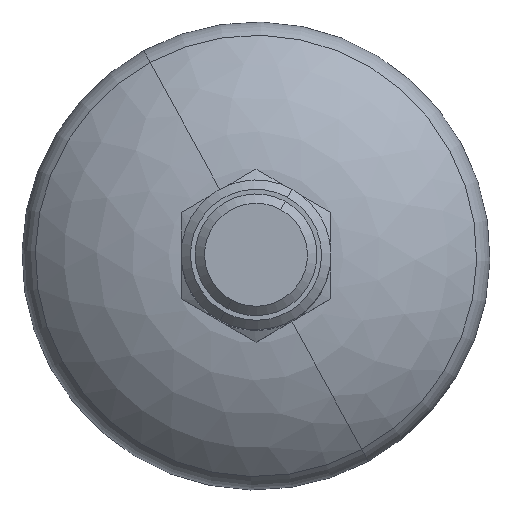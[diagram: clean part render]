
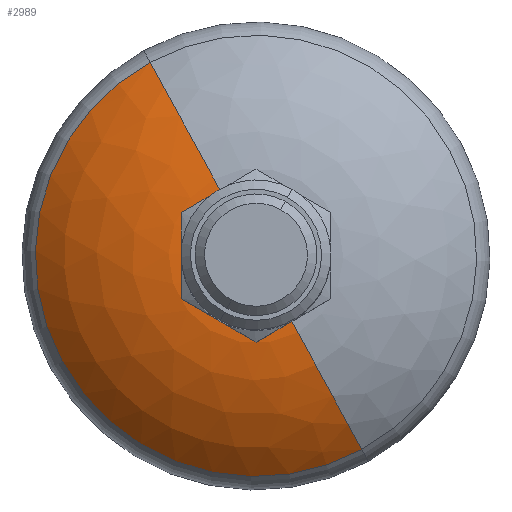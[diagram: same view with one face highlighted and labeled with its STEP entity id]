
A CAD part, top view. The second image highlights one B-rep face of the part: STEP entity #2989.
In plain terms, the highlighted face is a revolution surface.
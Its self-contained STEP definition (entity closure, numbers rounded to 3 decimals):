
#2876=CARTESIAN_POINT('Vertex',(-11.3,20.685,6.5)) ;
#2883=CARTESIAN_POINT('Vertex',(11.3,-20.685,6.5)) ;
#2898=CARTESIAN_POINT('Axis2P3D Location',(0.,0.,6.5)) ;
#2911=CARTESIAN_POINT('Control Point',(-11.3,20.685,6.5)) ;
#2912=CARTESIAN_POINT('Control Point',(-9.597,17.567,10.126)) ;
#2913=CARTESIAN_POINT('Control Point',(-7.42,13.582,12.792)) ;
#2914=CARTESIAN_POINT('Control Point',(-4.972,9.101,14.082)) ;
#2915=CARTESIAN_POINT('Control Point',(-2.539,4.647,13.996)) ;
#2916=CARTESIAN_POINT('Axis1P Location',(0.,0.,-11.)) ;
#2920=CARTESIAN_POINT('Axis2P3D Location',(2.741,-5.017,-11.)) ;
#2924=CARTESIAN_POINT('Vertex',(2.539,-4.647,13.996)) ;
#2927=CARTESIAN_POINT('Axis2P3D Location',(-2.741,5.017,-11.)) ;
#2931=CARTESIAN_POINT('Vertex',(-2.539,4.647,13.996)) ;
#2978=CARTESIAN_POINT('Axis2P3D Location',(0.,0.,13.996)) ;
#2899=DIRECTION('Axis2P3D Direction',(0.,0.,1.)) ;
#2917=DIRECTION('Axis1P Direction',(-0.,-0.,-1.)) ;
#2921=DIRECTION('Axis2P3D Direction',(-0.878,-0.479,0.)) ;
#2928=DIRECTION('Axis2P3D Direction',(0.878,0.479,-0.)) ;
#2979=DIRECTION('Axis2P3D Direction',(0.,0.,1.)) ;
#2900=AXIS2_PLACEMENT_3D('Circle Axis2P3D',#2898,#2899,$) ;
#2922=AXIS2_PLACEMENT_3D('Circle Axis2P3D',#2920,#2921,$) ;
#2929=AXIS2_PLACEMENT_3D('Circle Axis2P3D',#2927,#2928,$) ;
#2980=AXIS2_PLACEMENT_3D('Circle Axis2P3D',#2978,#2979,$) ;
#2984=ORIENTED_EDGE('',*,*,#2933,.F.) ;
#2985=ORIENTED_EDGE('',*,*,#2902,.T.) ;
#2986=ORIENTED_EDGE('',*,*,#2926,.T.) ;
#2987=ORIENTED_EDGE('',*,*,#2982,.F.) ;
#2989=ADVANCED_FACE('PartBody',(#2988),#2919,.F.) ;
#2918=AXIS1_PLACEMENT('Revolution Surface Axis1P',#2916,#2917) ;
#2910=B_SPLINE_CURVE_WITH_KNOTS('',4,(#2911,#2912,#2913,#2914,#2915),.UNSPECIFIED.,.F.,.U.,(5,5),(19.385,39.692),.UNSPECIFIED.) ;
#2901=CIRCLE('generated circle',#2900,23.571) ;
#2923=CIRCLE('generated circle',#2922,25.) ;
#2930=CIRCLE('generated circle',#2929,25.) ;
#2981=CIRCLE('generated circle',#2980,5.295) ;
#2902=EDGE_CURVE('',#2877,#2884,#2901,.T.) ;
#2926=EDGE_CURVE('',#2884,#2925,#2923,.T.) ;
#2933=EDGE_CURVE('',#2877,#2932,#2930,.T.) ;
#2982=EDGE_CURVE('',#2932,#2925,#2981,.T.) ;
#2983=EDGE_LOOP('',(#2984,#2985,#2986,#2987)) ;
#2988=FACE_OUTER_BOUND('',#2983,.T.) ;
#2919=SURFACE_OF_REVOLUTION('homeo Torus',#2910,#2918) ;
#2877=VERTEX_POINT('',#2876) ;
#2884=VERTEX_POINT('',#2883) ;
#2925=VERTEX_POINT('',#2924) ;
#2932=VERTEX_POINT('',#2931) ;
